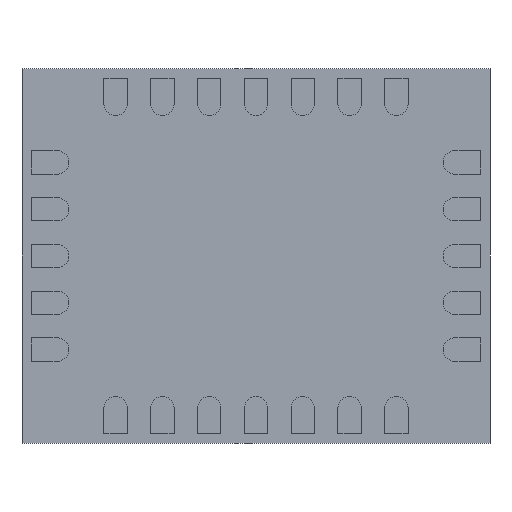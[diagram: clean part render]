
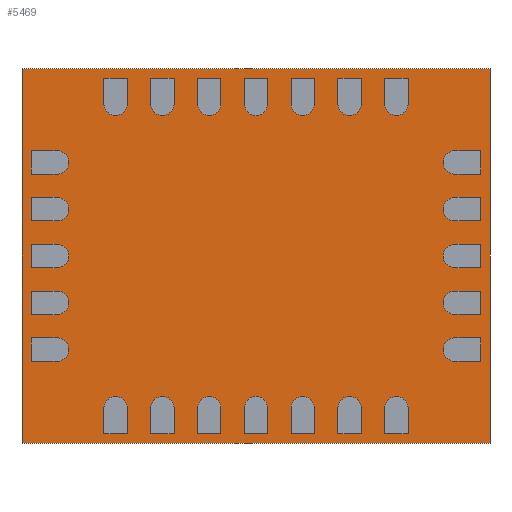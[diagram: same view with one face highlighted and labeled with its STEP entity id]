
A CAD part, front view. The second image highlights one B-rep face of the part: STEP entity #5469.
In plain terms, the highlighted planar face has unit normal (0, -1, 0).
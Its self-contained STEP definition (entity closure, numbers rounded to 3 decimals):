
#5312 = CARTESIAN_POINT ( 'NONE',  ( -2.5, 0.05, -2. ) ) ;
#5313 = VERTEX_POINT ( 'NONE', #5312 ) ;
#5314 = CARTESIAN_POINT ( 'NONE',  ( -2.5, 0.05, 2. ) ) ;
#5315 = VERTEX_POINT ( 'NONE', #5314 ) ;
#5316 = CARTESIAN_POINT ( 'NONE',  ( -2.5, 0.05, 2. ) ) ;
#5317 = DIRECTION ( 'NONE',  ( 0., 0., 1. ) ) ;
#5318 = VECTOR ( 'NONE', #5317, 1000. ) ;
#5319 = LINE ( 'NONE', #5316, #5318 ) ;
#5320 = EDGE_CURVE ( 'NONE', #5313, #5315, #5319, .T. ) ;
#5352 = CARTESIAN_POINT ( 'NONE',  ( 2.5, 0.05, 2. ) ) ;
#5353 = VERTEX_POINT ( 'NONE', #5352 ) ;
#5354 = CARTESIAN_POINT ( 'NONE',  ( 2.5, 0.05, 2. ) ) ;
#5355 = DIRECTION ( 'NONE',  ( 1., 0., 0. ) ) ;
#5356 = VECTOR ( 'NONE', #5355, 1000. ) ;
#5357 = LINE ( 'NONE', #5354, #5356 ) ;
#5358 = EDGE_CURVE ( 'NONE', #5315, #5353, #5357, .T. ) ;
#5383 = CARTESIAN_POINT ( 'NONE',  ( 2.5, 0.05, -2. ) ) ;
#5384 = VERTEX_POINT ( 'NONE', #5383 ) ;
#5385 = CARTESIAN_POINT ( 'NONE',  ( 2.5, 0.05, 2. ) ) ;
#5386 = DIRECTION ( 'NONE',  ( 0., 0., -1. ) ) ;
#5387 = VECTOR ( 'NONE', #5386, 1000. ) ;
#5388 = LINE ( 'NONE', #5385, #5387 ) ;
#5389 = EDGE_CURVE ( 'NONE', #5353, #5384, #5388, .T. ) ;
#5414 = CARTESIAN_POINT ( 'NONE',  ( 2.5, 0.05, -2. ) ) ;
#5415 = DIRECTION ( 'NONE',  ( -1., 0., 0. ) ) ;
#5416 = VECTOR ( 'NONE', #5415, 1000. ) ;
#5417 = LINE ( 'NONE', #5414, #5416 ) ;
#5418 = EDGE_CURVE ( 'NONE', #5384, #5313, #5417, .T. ) ;
#5458 = ORIENTED_EDGE ( 'NONE', *, *, #5320, .F. ) ;
#5459 = ORIENTED_EDGE ( 'NONE', *, *, #5418, .F. ) ;
#5460 = ORIENTED_EDGE ( 'NONE', *, *, #5389, .F. ) ;
#5461 = ORIENTED_EDGE ( 'NONE', *, *, #5358, .F. ) ;
#5462 = EDGE_LOOP ( 'NONE', ( #5458, #5459, #5460, #5461 ) ) ;
#5463 = FACE_OUTER_BOUND ( 'NONE', #5462, .T. ) ;
#5464 = CARTESIAN_POINT ( 'NONE',  ( 0., 0.05, 0. ) ) ;
#5465 = DIRECTION ( 'NONE',  ( 0., 1., 0. ) ) ;
#5466 = DIRECTION ( 'NONE',  ( 0., 0., 1. ) ) ;
#5467 = AXIS2_PLACEMENT_3D ( 'NONE', #5464, #5465, #5466 ) ;
#5468 = PLANE ( 'NONE', #5467 ) ;
#5469 = ADVANCED_FACE ( 'NONE', ( #5463 ), #5468, .F. ) ;
